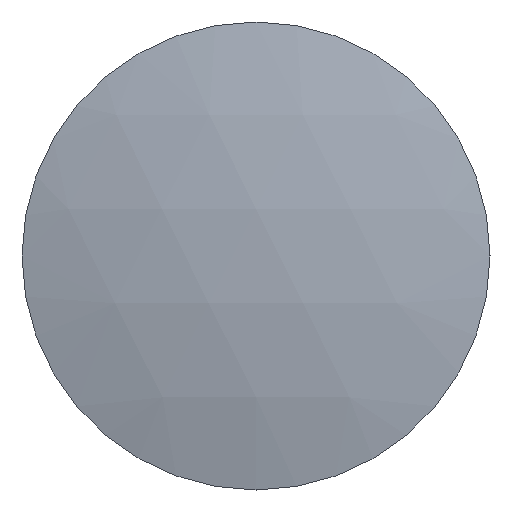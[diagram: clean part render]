
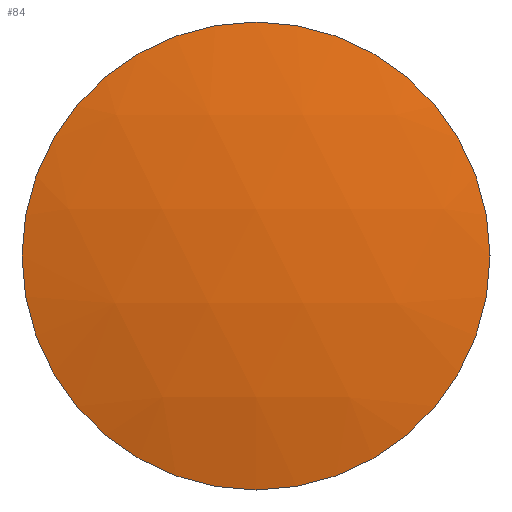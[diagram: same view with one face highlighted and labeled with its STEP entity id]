
A CAD part, front view. The second image highlights one B-rep face of the part: STEP entity #84.
In plain terms, the highlighted spherical face has radius 31.14 mm.
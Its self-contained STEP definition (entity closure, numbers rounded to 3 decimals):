
#68=CARTESIAN_POINT('',(0.0,27.34,0.0));
#69=DIRECTION('',(0.0,0.0,1.0));
#70=DIRECTION('',(1.0,0.0,0.0));
#71=AXIS2_PLACEMENT_3D('',#68,#69,#70);
#72=SPHERICAL_SURFACE('',#71,31.14);
#73=CARTESIAN_POINT('',(-7.5,-2.883,0.0));
#74=VERTEX_POINT('',#73);
#75=CARTESIAN_POINT('',(0.0,-2.883,0.0));
#76=DIRECTION('',(0.0,1.0,0.0));
#77=DIRECTION('',(-1.0,0.0,0.0));
#78=AXIS2_PLACEMENT_3D('',#75,#76,#77);
#79=CIRCLE('',#78,7.5);
#80=EDGE_CURVE('',#74,#74,#79,.T.);
#81=ORIENTED_EDGE('',*,*,#80,.F.);
#82=EDGE_LOOP('',(#81));
#83=FACE_OUTER_BOUND('',#82,.T.);
#84=ADVANCED_FACE('',(#83),#72,.T.);
